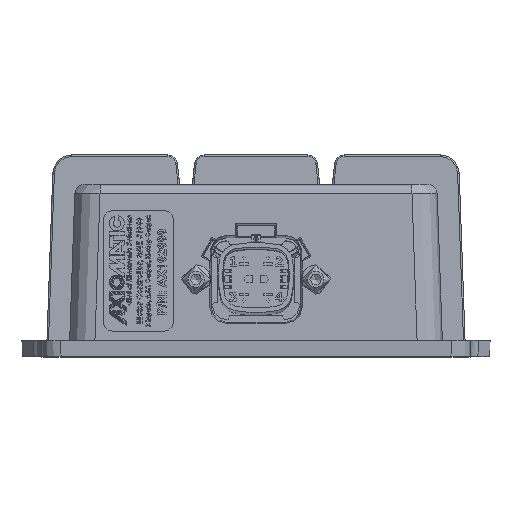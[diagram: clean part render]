
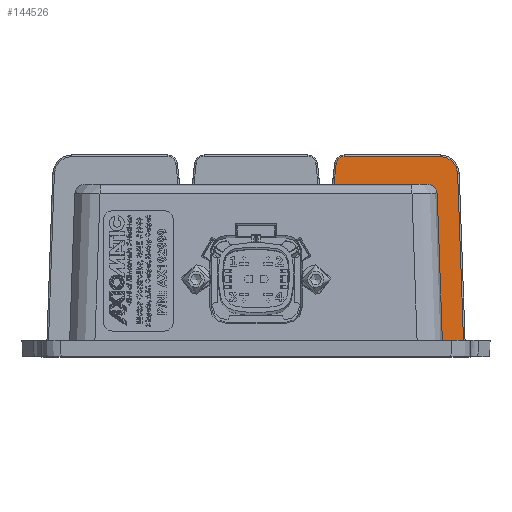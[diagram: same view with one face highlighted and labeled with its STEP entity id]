
A CAD part, top view. The second image highlights one B-rep face of the part: STEP entity #144526.
In plain terms, the highlighted planar face has unit normal (0, 0.026, 1).
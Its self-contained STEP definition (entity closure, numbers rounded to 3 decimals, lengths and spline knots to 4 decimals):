
#1829=ELLIPSE('',#153883,0.2166,0.2165);
#1831=ELLIPSE('',#153888,0.0985,0.0984);
#1846=ELLIPSE('',#153996,0.1182,0.1181);
#18623=FACE_OUTER_BOUND('',#27169,.T.);
#27169=EDGE_LOOP('',(#122665,#122666,#122667,#122668,#122669,#122670,#122671,
#122672,#122673));
#36034=LINE('',#225677,#49033);
#37715=LINE('',#243468,#50714);
#39492=LINE('',#267614,#52491);
#39493=LINE('',#267654,#52492);
#39495=LINE('',#267687,#52494);
#39595=LINE('',#267910,#52594);
#49033=VECTOR('',#169514,0.3937);
#50714=VECTOR('',#174781,0.3937);
#52491=VECTOR('',#182832,0.3937);
#52492=VECTOR('',#182843,0.3937);
#52494=VECTOR('',#182853,0.3937);
#52594=VECTOR('',#183165,0.3937);
#61682=VERTEX_POINT('',#225674);
#61683=VERTEX_POINT('',#225676);
#63640=VERTEX_POINT('',#243465);
#63641=VERTEX_POINT('',#243467);
#65954=VERTEX_POINT('',#267612);
#65956=VERTEX_POINT('',#267646);
#65958=VERTEX_POINT('',#267652);
#65960=VERTEX_POINT('',#267682);
#65977=VERTEX_POINT('',#267908);
#78337=EDGE_CURVE('',#61682,#61683,#36034,.T.);
#81247=EDGE_CURVE('',#63640,#63641,#37715,.T.);
#85203=EDGE_CURVE('',#65954,#61682,#39492,.T.);
#85205=EDGE_CURVE('',#65956,#65954,#1829,.T.);
#85208=EDGE_CURVE('',#65958,#65956,#39493,.T.);
#85211=EDGE_CURVE('',#65960,#65958,#1831,.T.);
#85213=EDGE_CURVE('',#63641,#65960,#39495,.T.);
#85326=EDGE_CURVE('',#65977,#63640,#1846,.F.);
#85327=EDGE_CURVE('',#61683,#65977,#39595,.F.);
#122665=ORIENTED_EDGE('',*,*,#85213,.F.);
#122666=ORIENTED_EDGE('',*,*,#81247,.F.);
#122667=ORIENTED_EDGE('',*,*,#85326,.F.);
#122668=ORIENTED_EDGE('',*,*,#85327,.F.);
#122669=ORIENTED_EDGE('',*,*,#78337,.F.);
#122670=ORIENTED_EDGE('',*,*,#85203,.F.);
#122671=ORIENTED_EDGE('',*,*,#85205,.F.);
#122672=ORIENTED_EDGE('',*,*,#85208,.F.);
#122673=ORIENTED_EDGE('',*,*,#85211,.F.);
#131593=PLANE('',#153995);
#144526=ADVANCED_FACE('',(#18623),#131593,.F.);
#153883=AXIS2_PLACEMENT_3D('',#267648,#182835,#182836);
#153888=AXIS2_PLACEMENT_3D('',#267684,#182847,#182848);
#153995=AXIS2_PLACEMENT_3D('',#267907,#183161,#183162);
#153996=AXIS2_PLACEMENT_3D('',#267909,#183163,#183164);
#169514=DIRECTION('',(-1.,0.,0.));
#174781=DIRECTION('',(-1.,0.,0.));
#182832=DIRECTION('',(0.035,-0.999,0.026));
#182835=DIRECTION('center_axis',(0.,-0.026,
-1.));
#182836=DIRECTION('ref_axis',(0.,1.,-0.026));
#182843=DIRECTION('',(1.,0.,0.));
#182847=DIRECTION('center_axis',(0.,-0.026,
-1.));
#182848=DIRECTION('ref_axis',(0.,1.,-0.026));
#182853=DIRECTION('',(0.104,0.994,-0.026));
#183161=DIRECTION('center_axis',(0.,-0.026,
-1.));
#183162=DIRECTION('ref_axis',(1.,0.,0.));
#183163=DIRECTION('center_axis',(0.,-0.026,
-1.));
#183164=DIRECTION('ref_axis',(0.,1.,-0.026));
#183165=DIRECTION('',(0.035,-0.999,0.026));
#225674=CARTESIAN_POINT('',(2.5663,-1.6578,1.7238));
#225676=CARTESIAN_POINT('',(2.3048,-1.6578,1.7238));
#225677=CARTESIAN_POINT('',(2.586,-1.6578,1.7238));
#243465=CARTESIAN_POINT('',(2.1234,0.2702,1.6733));
#243467=CARTESIAN_POINT('',(0.9646,0.2702,1.6733));
#243468=CARTESIAN_POINT('',(0.,0.2702,1.6733));
#267612=CARTESIAN_POINT('',(2.4942,0.4072,1.6697));
#267614=CARTESIAN_POINT('',(2.5372,-0.8251,1.7019));
#267646=CARTESIAN_POINT('',(2.2778,0.6162,1.6642));
#267648=CARTESIAN_POINT('Origin',(2.2778,0.3997,1.6699));
#267652=CARTESIAN_POINT('',(1.0896,0.6162,1.6642));
#267654=CARTESIAN_POINT('',(0.,0.6162,1.6642));
#267682=CARTESIAN_POINT('',(0.9917,0.5281,1.6665));
#267684=CARTESIAN_POINT('Origin',(1.0896,0.5178,1.6668));
#267687=CARTESIAN_POINT('',(0.9601,0.2268,1.6744));
#267907=CARTESIAN_POINT('Origin',(0.,-0.0816,
1.6825));
#267908=CARTESIAN_POINT('',(2.2415,0.1562,1.6762));
#267909=CARTESIAN_POINT('Origin',(2.1234,0.1521,1.6764));
#267910=CARTESIAN_POINT('',(2.2442,0.0793,1.6783));
